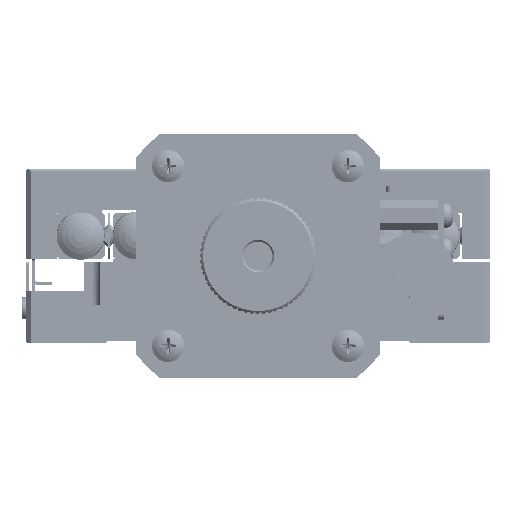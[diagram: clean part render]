
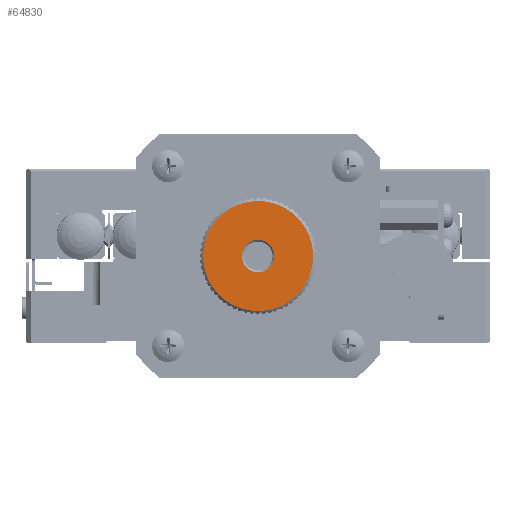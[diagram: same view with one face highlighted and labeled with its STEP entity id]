
A CAD part, front view. The second image highlights one B-rep face of the part: STEP entity #64830.
In plain terms, the highlighted planar face has unit normal (0, -1, 0).
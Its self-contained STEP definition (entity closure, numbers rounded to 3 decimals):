
#5130 = DIRECTION ( 'NONE',  ( 0.936, 0., 0.352 ) ) ;
#6269 = PLANE ( 'NONE',  #19074 ) ;
#7456 = DIRECTION ( 'NONE',  ( 0.936, 0., 0.352 ) ) ;
#10498 = VERTEX_POINT ( 'NONE', #146134 ) ;
#11875 = EDGE_CURVE ( 'NONE', #20069, #169044, #137653, .T. ) ;
#13038 = AXIS2_PLACEMENT_3D ( 'NONE', #90054, #206567, #41865 ) ;
#18716 = EDGE_CURVE ( 'NONE', #169044, #20069, #94917, .T. ) ;
#19074 = AXIS2_PLACEMENT_3D ( 'NONE', #166782, #52378, #117647 ) ;
#20069 = VERTEX_POINT ( 'NONE', #193487 ) ;
#41176 = AXIS2_PLACEMENT_3D ( 'NONE', #133888, #154029, #7456 ) ;
#41865 = DIRECTION ( 'NONE',  ( 0.936, 0., 0.352 ) ) ;
#51637 = CARTESIAN_POINT ( 'NONE',  ( 8.892, -133., 18.343 ) ) ;
#52378 = DIRECTION ( 'NONE',  ( 0., 1., 0. ) ) ;
#55521 = FACE_OUTER_BOUND ( 'NONE', #194136, .T. ) ;
#64830 = ADVANCED_FACE ( 'NONE', ( #200975, #55521 ), #6269, .F. ) ;
#69352 = AXIS2_PLACEMENT_3D ( 'NONE', #139805, #143993, #208086 ) ;
#77958 = CARTESIAN_POINT ( 'NONE',  ( 2.621, -133., 15.985 ) ) ;
#83742 = ORIENTED_EDGE ( 'NONE', *, *, #134464, .T. ) ;
#90054 = CARTESIAN_POINT ( 'NONE',  ( 0., -133., 15. ) ) ;
#94917 = CIRCLE ( 'NONE', #112051, 9.5 ) ;
#99381 = CARTESIAN_POINT ( 'NONE',  ( 0., -133., 15. ) ) ;
#104547 = EDGE_LOOP ( 'NONE', ( #83742, #112600 ) ) ;
#104955 = EDGE_CURVE ( 'NONE', #209897, #10498, #164127, .T. ) ;
#112051 = AXIS2_PLACEMENT_3D ( 'NONE', #99381, #151681, #5130 ) ;
#112600 = ORIENTED_EDGE ( 'NONE', *, *, #104955, .T. ) ;
#117647 = DIRECTION ( 'NONE',  ( 0.936, 0., 0.352 ) ) ;
#133888 = CARTESIAN_POINT ( 'NONE',  ( 0., -133., 15. ) ) ;
#134464 = EDGE_CURVE ( 'NONE', #10498, #209897, #156582, .T. ) ;
#137653 = CIRCLE ( 'NONE', #69352, 9.5 ) ;
#139805 = CARTESIAN_POINT ( 'NONE',  ( 0., -133., 15. ) ) ;
#143993 = DIRECTION ( 'NONE',  ( 0., -1., 0. ) ) ;
#146134 = CARTESIAN_POINT ( 'NONE',  ( -2.621, -133., 14.015 ) ) ;
#151681 = DIRECTION ( 'NONE',  ( 0., -1., 0. ) ) ;
#154029 = DIRECTION ( 'NONE',  ( 0., 1., 0. ) ) ;
#156582 = CIRCLE ( 'NONE', #13038, 2.8 ) ;
#164127 = CIRCLE ( 'NONE', #41176, 2.8 ) ;
#166782 = CARTESIAN_POINT ( 'NONE',  ( 0., -133., 15. ) ) ;
#169044 = VERTEX_POINT ( 'NONE', #51637 ) ;
#193487 = CARTESIAN_POINT ( 'NONE',  ( -8.892, -133., 11.657 ) ) ;
#194136 = EDGE_LOOP ( 'NONE', ( #210575, #201260 ) ) ;
#200975 = FACE_BOUND ( 'NONE', #104547, .T. ) ;
#201260 = ORIENTED_EDGE ( 'NONE', *, *, #11875, .T. ) ;
#206567 = DIRECTION ( 'NONE',  ( 0., 1., 0. ) ) ;
#208086 = DIRECTION ( 'NONE',  ( 0.936, 0., 0.352 ) ) ;
#209897 = VERTEX_POINT ( 'NONE', #77958 ) ;
#210575 = ORIENTED_EDGE ( 'NONE', *, *, #18716, .T. ) ;
